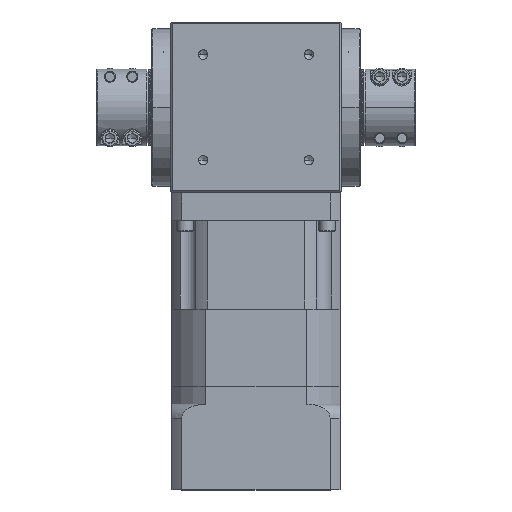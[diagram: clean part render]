
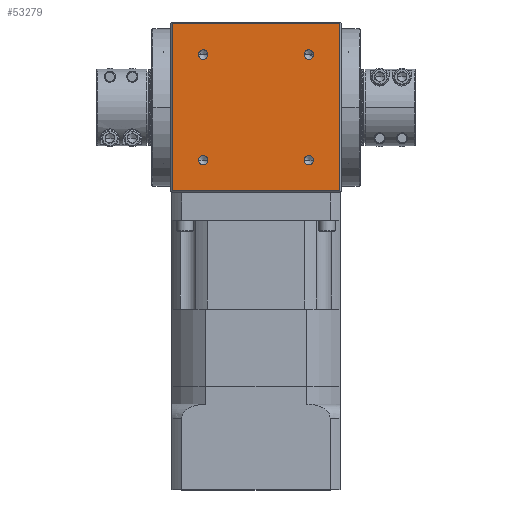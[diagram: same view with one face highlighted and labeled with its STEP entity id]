
A CAD part, top view. The second image highlights one B-rep face of the part: STEP entity #53279.
In plain terms, the highlighted planar face has unit normal (0, 0, 1).
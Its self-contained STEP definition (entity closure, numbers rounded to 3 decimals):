
#308 = CIRCLE ( 'NONE', #61456, 5.1 ) ;
#597 = DIRECTION ( 'NONE',  ( 0., -1., 0. ) ) ;
#892 = VECTOR ( 'NONE', #39166, 1000. ) ;
#1352 = ORIENTED_EDGE ( 'NONE', *, *, #29664, .F. ) ;
#2187 = CARTESIAN_POINT ( 'NONE',  ( -56.569, 56.569, 91.5 ) ) ;
#4421 = AXIS2_PLACEMENT_3D ( 'NONE', #64539, #31994, #69998 ) ;
#4579 = VERTEX_POINT ( 'NONE', #13097 ) ;
#5593 = ORIENTED_EDGE ( 'NONE', *, *, #68090, .T. ) ;
#5666 = CARTESIAN_POINT ( 'NONE',  ( 0., -89.5, 91.5 ) ) ;
#6223 = DIRECTION ( 'NONE',  ( -1., 0., 0. ) ) ;
#6591 = CARTESIAN_POINT ( 'NONE',  ( 51.469, 56.569, 91.5 ) ) ;
#7918 = DIRECTION ( 'NONE',  ( 1., 0., 0. ) ) ;
#8036 = LINE ( 'NONE', #49900, #892 ) ;
#10036 = CARTESIAN_POINT ( 'NONE',  ( -61.669, -56.569, 91.5 ) ) ;
#10319 = CARTESIAN_POINT ( 'NONE',  ( -56.569, -56.569, 91.5 ) ) ;
#11283 = EDGE_CURVE ( 'NONE', #45925, #20051, #69704, .T. ) ;
#11793 = DIRECTION ( 'NONE',  ( 0., 0., 1. ) ) ;
#12167 = DIRECTION ( 'NONE',  ( 0., 0., 1. ) ) ;
#12205 = VERTEX_POINT ( 'NONE', #10036 ) ;
#13097 = CARTESIAN_POINT ( 'NONE',  ( -89.5, -89.5, 91.5 ) ) ;
#13201 = DIRECTION ( 'NONE',  ( 0., 0., 1. ) ) ;
#15083 = CARTESIAN_POINT ( 'NONE',  ( 56.569, 56.569, 91.5 ) ) ;
#15992 = DIRECTION ( 'NONE',  ( 1., 0., 0. ) ) ;
#16266 = AXIS2_PLACEMENT_3D ( 'NONE', #60730, #28134, #66203 ) ;
#18234 = ORIENTED_EDGE ( 'NONE', *, *, #28925, .T. ) ;
#18998 = CARTESIAN_POINT ( 'NONE',  ( -56.569, -56.569, 91.5 ) ) ;
#20051 = VERTEX_POINT ( 'NONE', #51283 ) ;
#20257 = CARTESIAN_POINT ( 'NONE',  ( -51.469, -56.569, 91.5 ) ) ;
#20733 = DIRECTION ( 'NONE',  ( 1., 0., 0. ) ) ;
#20824 = VECTOR ( 'NONE', #38958, 1000. ) ;
#21290 = CARTESIAN_POINT ( 'NONE',  ( -89.5, 89.5, 91.5 ) ) ;
#22067 = EDGE_CURVE ( 'NONE', #57290, #12205, #29083, .T. ) ;
#22605 = CARTESIAN_POINT ( 'NONE',  ( -89.5, 0., 91.5 ) ) ;
#22803 = ORIENTED_EDGE ( 'NONE', *, *, #51229, .F. ) ;
#23585 = VERTEX_POINT ( 'NONE', #48607 ) ;
#24563 = DIRECTION ( 'NONE',  ( 1., 0., 0. ) ) ;
#26081 = EDGE_CURVE ( 'NONE', #29956, #4579, #64669, .T. ) ;
#26928 = CIRCLE ( 'NONE', #16266, 5.1 ) ;
#27501 = ORIENTED_EDGE ( 'NONE', *, *, #71531, .F. ) ;
#28134 = DIRECTION ( 'NONE',  ( 0., 0., 1. ) ) ;
#28352 = ORIENTED_EDGE ( 'NONE', *, *, #59878, .T. ) ;
#28583 = AXIS2_PLACEMENT_3D ( 'NONE', #2187, #41089, #7918 ) ;
#28925 = EDGE_CURVE ( 'NONE', #4579, #34895, #35440, .T. ) ;
#29083 = CIRCLE ( 'NONE', #55908, 5.1 ) ;
#29171 = FACE_OUTER_BOUND ( 'NONE', #50711, .T. ) ;
#29664 = EDGE_CURVE ( 'NONE', #20051, #45925, #308, .T. ) ;
#29906 = CARTESIAN_POINT ( 'NONE',  ( -51.469, 56.569, 91.5 ) ) ;
#29920 = EDGE_LOOP ( 'NONE', ( #34932, #29942 ) ) ;
#29942 = ORIENTED_EDGE ( 'NONE', *, *, #60412, .F. ) ;
#29956 = VERTEX_POINT ( 'NONE', #21290 ) ;
#31230 = VERTEX_POINT ( 'NONE', #56843 ) ;
#31994 = DIRECTION ( 'NONE',  ( 0., 0., 1. ) ) ;
#33266 = EDGE_CURVE ( 'NONE', #69189, #41628, #26928, .T. ) ;
#33417 = CARTESIAN_POINT ( 'NONE',  ( 61.669, 56.569, 91.5 ) ) ;
#33946 = ORIENTED_EDGE ( 'NONE', *, *, #26081, .T. ) ;
#34895 = VERTEX_POINT ( 'NONE', #59577 ) ;
#34932 = ORIENTED_EDGE ( 'NONE', *, *, #33266, .F. ) ;
#35440 = LINE ( 'NONE', #5666, #20824 ) ;
#35767 = VECTOR ( 'NONE', #597, 1000. ) ;
#38958 = DIRECTION ( 'NONE',  ( 1., 0., 0. ) ) ;
#39166 = DIRECTION ( 'NONE',  ( 0., 1., 0. ) ) ;
#41089 = DIRECTION ( 'NONE',  ( 0., 0., 1. ) ) ;
#41582 = EDGE_CURVE ( 'NONE', #31230, #49765, #50311, .T. ) ;
#41609 = EDGE_LOOP ( 'NONE', ( #27501, #53441 ) ) ;
#41628 = VERTEX_POINT ( 'NONE', #6591 ) ;
#41959 = FACE_BOUND ( 'NONE', #41609, .T. ) ;
#42687 = PLANE ( 'NONE',  #4421 ) ;
#42850 = CIRCLE ( 'NONE', #57623, 5.1 ) ;
#44842 = CARTESIAN_POINT ( 'NONE',  ( -56.569, 56.569, 91.5 ) ) ;
#44941 = CARTESIAN_POINT ( 'NONE',  ( 0., 89.5, 91.5 ) ) ;
#45195 = CARTESIAN_POINT ( 'NONE',  ( 56.569, -56.569, 91.5 ) ) ;
#45925 = VERTEX_POINT ( 'NONE', #64597 ) ;
#46193 = AXIS2_PLACEMENT_3D ( 'NONE', #45195, #12167, #50704 ) ;
#46215 = CARTESIAN_POINT ( 'NONE',  ( 56.569, -56.569, 91.5 ) ) ;
#47458 = EDGE_LOOP ( 'NONE', ( #49524, #22803 ) ) ;
#48607 = CARTESIAN_POINT ( 'NONE',  ( 89.5, 89.5, 91.5 ) ) ;
#48956 = DIRECTION ( 'NONE',  ( 0., 0., 1. ) ) ;
#49524 = ORIENTED_EDGE ( 'NONE', *, *, #22067, .F. ) ;
#49765 = VERTEX_POINT ( 'NONE', #29906 ) ;
#49900 = CARTESIAN_POINT ( 'NONE',  ( 89.5, 0., 91.5 ) ) ;
#50117 = CIRCLE ( 'NONE', #28583, 5.1 ) ;
#50311 = CIRCLE ( 'NONE', #56554, 5.1 ) ;
#50366 = DIRECTION ( 'NONE',  ( 1., 0., 0. ) ) ;
#50621 = VECTOR ( 'NONE', #6223, 1000. ) ;
#50704 = DIRECTION ( 'NONE',  ( 1., 0., 0. ) ) ;
#50711 = EDGE_LOOP ( 'NONE', ( #18234, #28352, #5593, #33946 ) ) ;
#51229 = EDGE_CURVE ( 'NONE', #12205, #57290, #42850, .T. ) ;
#51283 = CARTESIAN_POINT ( 'NONE',  ( 51.469, -56.569, 91.5 ) ) ;
#51662 = DIRECTION ( 'NONE',  ( 1., 0., 0. ) ) ;
#52121 = EDGE_LOOP ( 'NONE', ( #57698, #1352 ) ) ;
#53279 = ADVANCED_FACE ( 'NONE', ( #41959, #59826, #58107, #70864, #29171 ), #42687, .T. ) ;
#53441 = ORIENTED_EDGE ( 'NONE', *, *, #41582, .F. ) ;
#53451 = DIRECTION ( 'NONE',  ( 0., 0., 1. ) ) ;
#55908 = AXIS2_PLACEMENT_3D ( 'NONE', #10319, #48956, #15992 ) ;
#56554 = AXIS2_PLACEMENT_3D ( 'NONE', #44842, #11793, #50366 ) ;
#56843 = CARTESIAN_POINT ( 'NONE',  ( -61.669, 56.569, 91.5 ) ) ;
#57196 = DIRECTION ( 'NONE',  ( 0., 0., 1. ) ) ;
#57290 = VERTEX_POINT ( 'NONE', #20257 ) ;
#57623 = AXIS2_PLACEMENT_3D ( 'NONE', #18998, #57196, #24563 ) ;
#57698 = ORIENTED_EDGE ( 'NONE', *, *, #11283, .F. ) ;
#58107 = FACE_BOUND ( 'NONE', #52121, .T. ) ;
#59577 = CARTESIAN_POINT ( 'NONE',  ( 89.5, -89.5, 91.5 ) ) ;
#59826 = FACE_BOUND ( 'NONE', #29920, .T. ) ;
#59878 = EDGE_CURVE ( 'NONE', #34895, #23585, #8036, .T. ) ;
#60412 = EDGE_CURVE ( 'NONE', #41628, #69189, #62137, .T. ) ;
#60730 = CARTESIAN_POINT ( 'NONE',  ( 56.569, 56.569, 91.5 ) ) ;
#61456 = AXIS2_PLACEMENT_3D ( 'NONE', #46215, #13201, #51662 ) ;
#62137 = CIRCLE ( 'NONE', #63900, 5.1 ) ;
#63900 = AXIS2_PLACEMENT_3D ( 'NONE', #15083, #53451, #20733 ) ;
#64539 = CARTESIAN_POINT ( 'NONE',  ( 0., 0., 91.5 ) ) ;
#64597 = CARTESIAN_POINT ( 'NONE',  ( 61.669, -56.569, 91.5 ) ) ;
#64669 = LINE ( 'NONE', #22605, #35767 ) ;
#65029 = LINE ( 'NONE', #44941, #50621 ) ;
#66203 = DIRECTION ( 'NONE',  ( 1., 0., 0. ) ) ;
#68090 = EDGE_CURVE ( 'NONE', #23585, #29956, #65029, .T. ) ;
#69189 = VERTEX_POINT ( 'NONE', #33417 ) ;
#69704 = CIRCLE ( 'NONE', #46193, 5.1 ) ;
#69998 = DIRECTION ( 'NONE',  ( 1., 0., 0. ) ) ;
#70864 = FACE_BOUND ( 'NONE', #47458, .T. ) ;
#71531 = EDGE_CURVE ( 'NONE', #49765, #31230, #50117, .T. ) ;
